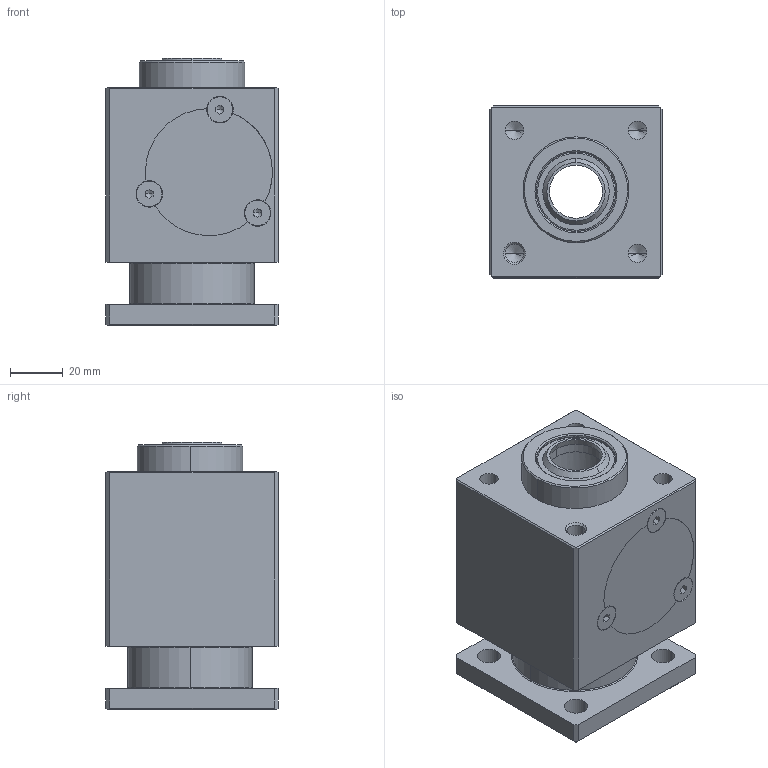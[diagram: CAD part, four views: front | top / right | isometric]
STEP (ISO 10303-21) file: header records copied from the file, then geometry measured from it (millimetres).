
FILE_DESCRIPTION (( 'STEP AP214' ), '1' );
FILE_NAME ('BM050.STEP', '2021-06-08T08:43:58', ( '' ), ( '' ), 'SwSTEP 2.0', 'SolidWorks 2016', '' );
FILE_SCHEMA (( 'AUTOMOTIVE_DESIGN' ));
Length unit declared in the file: millimetre
Products named in the file (1): BM050
Bounding box: 65 x 65 x 101 mm (x, y, z)
Surface area: 69774.2 mm2 (no closed solid volume)
Topology: 0 solids, 15 shells, 474 faces, 1195 edges, 738 vertices
Faces by surface type: cylinder 186, plane 136, cone 134, torus 12, bspline 6
Entity records: 20435 total; most frequent: CARTESIAN_POINT 3779, DIRECTION 2451, ORIENTED_EDGE 2294, EDGE_CURVE 1151, AXIS2_PLACEMENT_3D 989, VERTEX_POINT 738, EDGE_LOOP 538, CIRCLE 520
